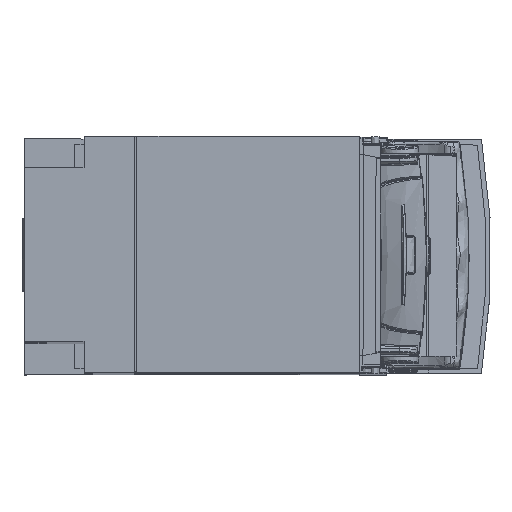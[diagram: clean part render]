
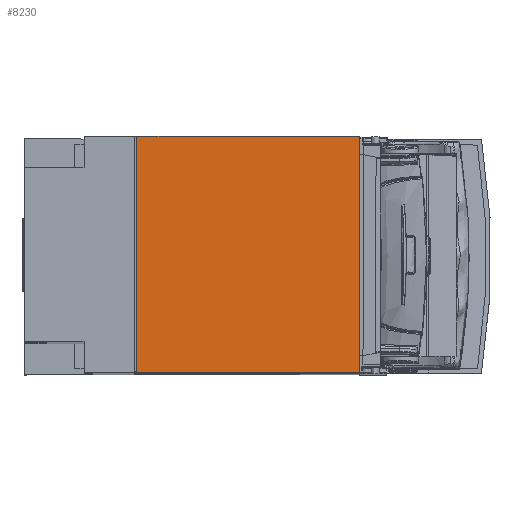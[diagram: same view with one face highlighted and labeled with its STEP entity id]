
A CAD part, top view. The second image highlights one B-rep face of the part: STEP entity #8230.
In plain terms, the highlighted planar face has unit normal (0, 0, 1).
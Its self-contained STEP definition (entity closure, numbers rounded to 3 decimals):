
#8230=ADVANCED_FACE('',(#17099),#14510,.F.);
#14510=PLANE('',#110002);
#17099=FACE_OUTER_BOUND('',#23391,.T.);
#23391=EDGE_LOOP('',(#46106,#46107,#46108,#46109));
#29912=LINE('',#139024,#37291);
#30127=LINE('',#139705,#37506);
#30647=LINE('',#140967,#38026);
#30689=LINE('',#141044,#38068);
#37291=VECTOR('',#116984,1.);
#37506=VECTOR('',#117323,1.);
#38026=VECTOR('',#118021,1.);
#38068=VECTOR('',#118077,1.);
#46106=ORIENTED_EDGE('',*,*,#89031,.T.);
#46107=ORIENTED_EDGE('',*,*,#88395,.F.);
#46108=ORIENTED_EDGE('',*,*,#88112,.F.);
#46109=ORIENTED_EDGE('',*,*,#88988,.F.);
#77794=VERTEX_POINT('',#139023);
#77795=VERTEX_POINT('',#139025);
#78059=VERTEX_POINT('',#139706);
#78603=VERTEX_POINT('',#140966);
#88112=EDGE_CURVE('',#77794,#77795,#29912,.T.);
#88395=EDGE_CURVE('',#77795,#78059,#30127,.T.);
#88988=EDGE_CURVE('',#78603,#77794,#30647,.T.);
#89031=EDGE_CURVE('',#78603,#78059,#30689,.T.);
#110002=AXIS2_PLACEMENT_3D('',#141045,#118078,#118079);
#116984=DIRECTION('',(0.,-1.,0.));
#117323=DIRECTION('',(-1.,0.,0.));
#118021=DIRECTION('',(1.,0.,0.));
#118077=DIRECTION('',(0.,-1.,0.));
#118078=DIRECTION('',(0.,0.,-1.));
#118079=DIRECTION('',(0.,1.,0.));
#139023=CARTESIAN_POINT('',(140.5,49.5,292.));
#139024=CARTESIAN_POINT('',(140.5,49.5,292.));
#139025=CARTESIAN_POINT('',(140.5,-49.5,292.));
#139705=CARTESIAN_POINT('',(152.,-49.5,292.));
#139706=CARTESIAN_POINT('',(47.2,-49.5,292.));
#140966=CARTESIAN_POINT('',(47.2,49.5,292.));
#140967=CARTESIAN_POINT('',(152.,49.5,292.));
#141044=CARTESIAN_POINT('',(47.2,49.3,292.));
#141045=CARTESIAN_POINT('',(152.,49.5,292.));
